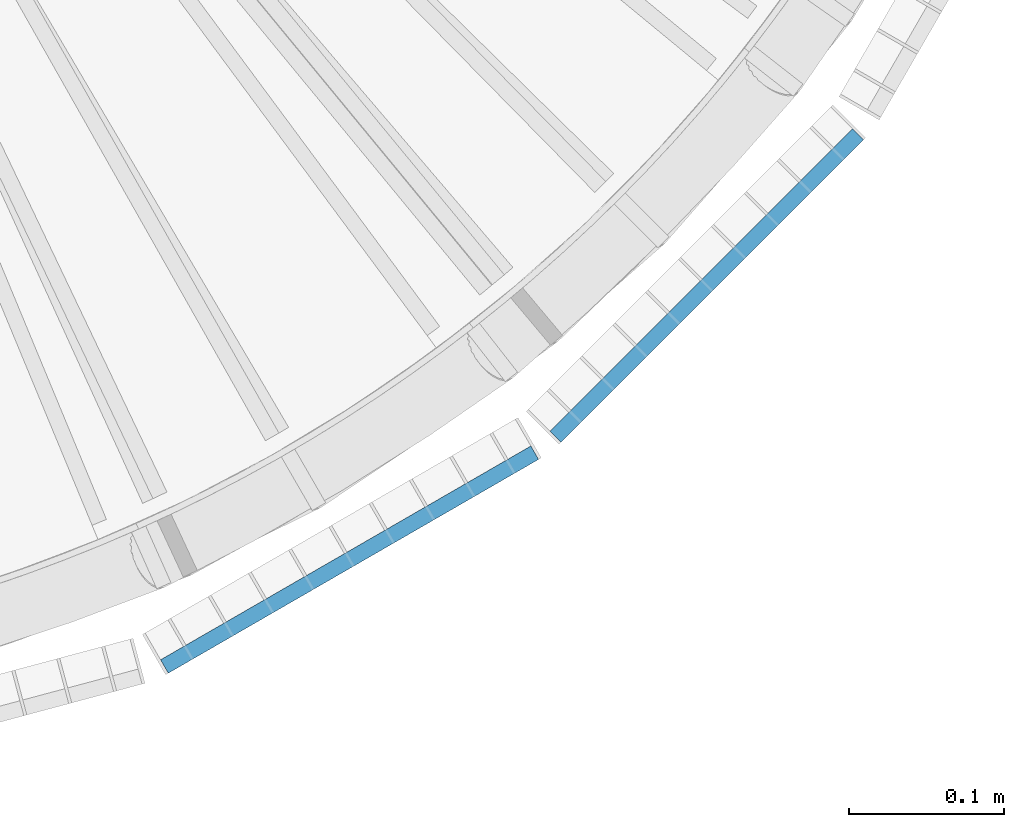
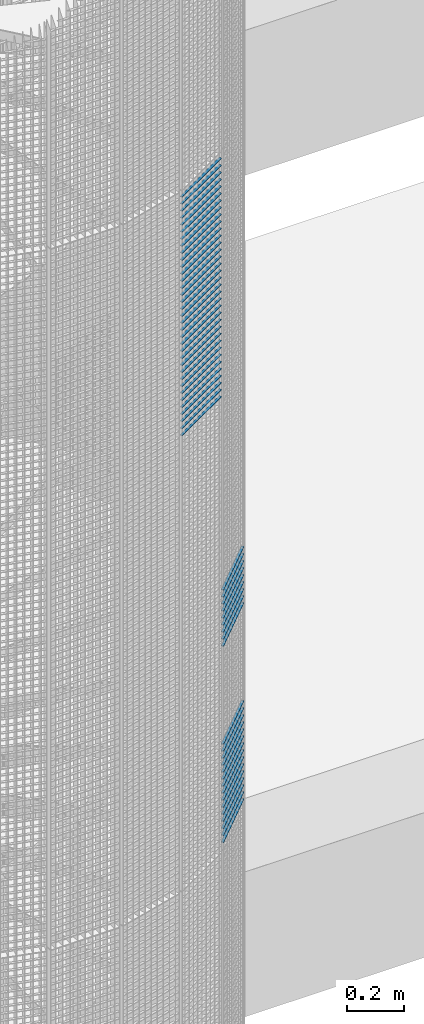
# One storey, part 248 of 1183: 59 beams, 2 elements without a shape of their own.
"""IFC2X3 building model written with IfcOpenShell, lengths in millimetres."""

from ifc_helpers import new_model, si_unit, frame, origin_with_axes, origin_2d_with_axis, place, context, subcontext, project, spatial, rectangle, extrude, material, type_object, element, aggregate, save


model = new_model("IFC2X3")

# Units and contexts
model_context = context("Model", 3, precision=1e-05, world=origin_with_axes())
body_context = subcontext(model_context, "Body", "Model", "MODEL_VIEW")
ifc_project = project(units=[si_unit("LENGTHUNIT", "METRE", prefix="MILLI"), si_unit("AREAUNIT", "SQUARE_METRE"), si_unit("VOLUMEUNIT", "CUBIC_METRE"), si_unit("MASSUNIT", "GRAM", prefix="KILO"), si_unit("TIMEUNIT", "SECOND"), si_unit("PLANEANGLEUNIT", "RADIAN"), si_unit("SOLIDANGLEUNIT", "STERADIAN"), si_unit("THERMODYNAMICTEMPERATUREUNIT", "DEGREE_CELSIUS"), si_unit("LUMINOUSINTENSITYUNIT", "LUMEN")], contexts=[model_context])

# Site, building, storey
site_placement = place(None, origin_with_axes())
site = spatial("IfcSite", under=ifc_project, at=site_placement, Name="Undefined", CompositionType="ELEMENT")
building_placement = place(site_placement, origin_with_axes())
building = spatial("IfcBuilding", under=site, at=building_placement, Name="Undefined", CompositionType="ELEMENT")
storey_placement = place(building_placement, origin_with_axes())
storey = spatial("IfcBuildingStorey", under=building, at=storey_placement, Name="Undefined", CompositionType="ELEMENT", Elevation=0.0)

# Assembly, beams
assembly_1_placement = place(storey_placement, origin_with_axes())
assembly_1 = element("IfcElementAssembly", 1, at=assembly_1_placement, inside=storey, Name="BORDURE", AssemblyPlace="NOTDEFINED", PredefinedType="NOTDEFINED")
ifc_material = material(Name="STEEL/S235JR")
beam_type = type_object("IfcBeamType", Name="PL2*10", PredefinedType="NOTDEFINED")
beam_1_placement = place(assembly_1_placement, frame((689.771348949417, -884.927168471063, 9870.0), z_axis=(0.707106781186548, -0.707106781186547, 0.0), x_axis=(0.707106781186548, 0.707106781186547, 0.0)))
beam_1 = element("IfcBeam", 2, at=beam_1_placement, type_object=beam_type, material=ifc_material, Name="ENTRETOISE", context=body_context, shape_type="SweptSolid", body=[
    extrude(rectangle(XDim=2.0, YDim=10.0, at=origin_2d_with_axis()), frame((275.999999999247, 9.09494701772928e-13, 1.53210777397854e-14), z_axis=(-1.0, 0.0, 0.0), x_axis=(0.0, -1.0, 0.0)), (0.0, 0.0, 1.0), 276.0),
])
beam_2_placement = place(assembly_1_placement, frame((689.771348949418, -884.927168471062, 9450.0), z_axis=(0.707106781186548, -0.707106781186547, 0.0), x_axis=(0.707106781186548, 0.707106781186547, 0.0)))
beam_2 = element("IfcBeam", 3, at=beam_2_placement, type_object=beam_type, material=ifc_material, Name="ENTRETOISE", context=body_context, shape_type="SweptSolid", body=[
    extrude(rectangle(XDim=2.0, YDim=10.0, at=origin_2d_with_axis()), frame((275.999999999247, 9.09494701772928e-13, 1.53210777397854e-14), z_axis=(-1.0, 0.0, 0.0), x_axis=(0.0, -1.0, 0.0)), (0.0, 0.0, 1.0), 276.0),
])
beam_3_placement = place(assembly_1_placement, frame((689.771348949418, -884.927168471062, 9420.0), z_axis=(0.707106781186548, -0.707106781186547, 0.0), x_axis=(0.707106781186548, 0.707106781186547, 0.0)))
beam_3 = element("IfcBeam", 4, at=beam_3_placement, type_object=beam_type, material=ifc_material, Name="ENTRETOISE", context=body_context, shape_type="SweptSolid", body=[
    extrude(rectangle(XDim=2.0, YDim=10.0, at=origin_2d_with_axis()), frame((275.999999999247, 9.09494701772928e-13, 1.53210777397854e-14), z_axis=(-1.0, 0.0, 0.0), x_axis=(0.0, -1.0, 0.0)), (0.0, 0.0, 1.0), 276.0),
])
beam_4_placement = place(assembly_1_placement, frame((689.771348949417, -884.927168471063, 9900.0), z_axis=(0.707106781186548, -0.707106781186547, 0.0), x_axis=(0.707106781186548, 0.707106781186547, 0.0)))
beam_4 = element("IfcBeam", 5, at=beam_4_placement, type_object=beam_type, material=ifc_material, Name="ENTRETOISE", context=body_context, shape_type="SweptSolid", body=[
    extrude(rectangle(XDim=2.0, YDim=10.0, at=origin_2d_with_axis()), frame((275.999999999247, 9.09494701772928e-13, 1.53210777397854e-14), z_axis=(-1.0, 0.0, 0.0), x_axis=(0.0, -1.0, 0.0)), (0.0, 0.0, 1.0), 276.0),
])
beam_5_placement = place(assembly_1_placement, frame((689.771348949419, -884.927168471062, 9390.0), z_axis=(0.707106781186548, -0.707106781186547, 0.0), x_axis=(0.707106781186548, 0.707106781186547, 0.0)))
beam_5 = element("IfcBeam", 6, at=beam_5_placement, type_object=beam_type, material=ifc_material, Name="ENTRETOISE", context=body_context, shape_type="SweptSolid", body=[
    extrude(rectangle(XDim=2.0, YDim=10.0, at=origin_2d_with_axis()), frame((275.999999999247, 9.09494701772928e-13, 1.53210777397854e-14), z_axis=(-1.0, 0.0, 0.0), x_axis=(0.0, -1.0, 0.0)), (0.0, 0.0, 1.0), 276.0),
])
beam_6_placement = place(assembly_1_placement, frame((689.771348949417, -884.927168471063, 9930.0), z_axis=(0.707106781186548, -0.707106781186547, 0.0), x_axis=(0.707106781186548, 0.707106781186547, 0.0)))
beam_6 = element("IfcBeam", 7, at=beam_6_placement, type_object=beam_type, material=ifc_material, Name="ENTRETOISE", context=body_context, shape_type="SweptSolid", body=[
    extrude(rectangle(XDim=2.0, YDim=10.0, at=origin_2d_with_axis()), frame((275.999999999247, 9.09494701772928e-13, 1.53210777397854e-14), z_axis=(-1.0, 0.0, 0.0), x_axis=(0.0, -1.0, 0.0)), (0.0, 0.0, 1.0), 276.0),
])
beam_7_placement = place(assembly_1_placement, frame((689.771348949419, -884.927168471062, 9360.0), z_axis=(0.707106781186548, -0.707106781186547, 0.0), x_axis=(0.707106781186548, 0.707106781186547, 0.0)))
beam_7 = element("IfcBeam", 8, at=beam_7_placement, type_object=beam_type, material=ifc_material, Name="ENTRETOISE", context=body_context, shape_type="SweptSolid", body=[
    extrude(rectangle(XDim=2.0, YDim=10.0, at=origin_2d_with_axis()), frame((275.999999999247, 9.09494701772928e-13, 1.53210777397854e-14), z_axis=(-1.0, 0.0, 0.0), x_axis=(0.0, -1.0, 0.0)), (0.0, 0.0, 1.0), 276.0),
])
beam_8_placement = place(assembly_1_placement, frame((689.771348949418, -884.927168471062, 9330.0), z_axis=(0.707106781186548, -0.707106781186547, 0.0), x_axis=(0.707106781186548, 0.707106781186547, 0.0)))
beam_8 = element("IfcBeam", 9, at=beam_8_placement, type_object=beam_type, material=ifc_material, Name="ENTRETOISE", context=body_context, shape_type="SweptSolid", body=[
    extrude(rectangle(XDim=2.0, YDim=10.0, at=origin_2d_with_axis()), frame((275.999999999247, 9.09494701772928e-13, 1.53210777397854e-14), z_axis=(-1.0, 0.0, 0.0), x_axis=(0.0, -1.0, 0.0)), (0.0, 0.0, 1.0), 276.0),
])
beam_9_placement = place(assembly_1_placement, frame((689.771348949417, -884.927168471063, 9960.0), z_axis=(0.707106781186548, -0.707106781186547, 0.0), x_axis=(0.707106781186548, 0.707106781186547, 0.0)))
beam_9 = element("IfcBeam", 10, at=beam_9_placement, type_object=beam_type, material=ifc_material, Name="ENTRETOISE", context=body_context, shape_type="SweptSolid", body=[
    extrude(rectangle(XDim=2.0, YDim=10.0, at=origin_2d_with_axis()), frame((275.999999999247, 9.09494701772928e-13, 1.53210777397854e-14), z_axis=(-1.0, 0.0, 0.0), x_axis=(0.0, -1.0, 0.0)), (0.0, 0.0, 1.0), 276.0),
])
beam_10_placement = place(assembly_1_placement, frame((689.771348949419, -884.927168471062, 9300.0), z_axis=(0.707106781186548, -0.707106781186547, 0.0), x_axis=(0.707106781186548, 0.707106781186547, 0.0)))
beam_10 = element("IfcBeam", 11, at=beam_10_placement, type_object=beam_type, material=ifc_material, Name="ENTRETOISE", context=body_context, shape_type="SweptSolid", body=[
    extrude(rectangle(XDim=2.0, YDim=10.0, at=origin_2d_with_axis()), frame((275.999999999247, 9.09494701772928e-13, 1.53210777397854e-14), z_axis=(-1.0, 0.0, 0.0), x_axis=(0.0, -1.0, 0.0)), (0.0, 0.0, 1.0), 276.0),
])
beam_11_placement = place(assembly_1_placement, frame((689.771348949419, -884.927168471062, 9270.0), z_axis=(0.707106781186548, -0.707106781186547, 0.0), x_axis=(0.707106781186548, 0.707106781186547, 0.0)))
beam_11 = element("IfcBeam", 12, at=beam_11_placement, type_object=beam_type, material=ifc_material, Name="ENTRETOISE", context=body_context, shape_type="SweptSolid", body=[
    extrude(rectangle(XDim=2.0, YDim=10.0, at=origin_2d_with_axis()), frame((275.999999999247, 9.09494701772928e-13, 1.53210777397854e-14), z_axis=(-1.0, 0.0, 0.0), x_axis=(0.0, -1.0, 0.0)), (0.0, 0.0, 1.0), 276.0),
])
beam_12_placement = place(assembly_1_placement, frame((689.771348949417, -884.927168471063, 9990.0), z_axis=(0.707106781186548, -0.707106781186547, 0.0), x_axis=(0.707106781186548, 0.707106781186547, 0.0)))
beam_12 = element("IfcBeam", 13, at=beam_12_placement, type_object=beam_type, material=ifc_material, Name="ENTRETOISE", context=body_context, shape_type="SweptSolid", body=[
    extrude(rectangle(XDim=2.0, YDim=10.0, at=origin_2d_with_axis()), frame((275.999999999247, 9.09494701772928e-13, 1.53210777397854e-14), z_axis=(-1.0, 0.0, 0.0), x_axis=(0.0, -1.0, 0.0)), (0.0, 0.0, 1.0), 276.0),
])
beam_13_placement = place(assembly_1_placement, frame((689.771348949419, -884.927168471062, 9240.0), z_axis=(0.707106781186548, -0.707106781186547, 0.0), x_axis=(0.707106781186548, 0.707106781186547, 0.0)))
beam_13 = element("IfcBeam", 14, at=beam_13_placement, type_object=beam_type, material=ifc_material, Name="ENTRETOISE", context=body_context, shape_type="SweptSolid", body=[
    extrude(rectangle(XDim=2.0, YDim=10.0, at=origin_2d_with_axis()), frame((275.999999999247, 9.09494701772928e-13, 1.53210777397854e-14), z_axis=(-1.0, 0.0, 0.0), x_axis=(0.0, -1.0, 0.0)), (0.0, 0.0, 1.0), 276.0),
])
beam_14_placement = place(assembly_1_placement, frame((689.771348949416, -884.927168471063, 10020.0), z_axis=(0.707106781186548, -0.707106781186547, 0.0), x_axis=(0.707106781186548, 0.707106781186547, 0.0)))
beam_14 = element("IfcBeam", 15, at=beam_14_placement, type_object=beam_type, material=ifc_material, Name="ENTRETOISE", context=body_context, shape_type="SweptSolid", body=[
    extrude(rectangle(XDim=2.0, YDim=10.0, at=origin_2d_with_axis()), frame((275.999999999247, 9.09494701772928e-13, 1.53210777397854e-14), z_axis=(-1.0, 0.0, 0.0), x_axis=(0.0, -1.0, 0.0)), (0.0, 0.0, 1.0), 276.0),
])
beam_15_placement = place(assembly_1_placement, frame((689.771348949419, -884.927168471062, 9210.0), z_axis=(0.707106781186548, -0.707106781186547, 0.0), x_axis=(0.707106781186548, 0.707106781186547, 0.0)))
beam_15 = element("IfcBeam", 16, at=beam_15_placement, type_object=beam_type, material=ifc_material, Name="ENTRETOISE", context=body_context, shape_type="SweptSolid", body=[
    extrude(rectangle(XDim=2.0, YDim=10.0, at=origin_2d_with_axis()), frame((275.999999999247, 9.09494701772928e-13, 1.53210777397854e-14), z_axis=(-1.0, 0.0, 0.0), x_axis=(0.0, -1.0, 0.0)), (0.0, 0.0, 1.0), 276.0),
])
beam_16_placement = place(assembly_1_placement, frame((689.771348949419, -884.927168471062, 9180.0), z_axis=(0.707106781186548, -0.707106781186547, 0.0), x_axis=(0.707106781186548, 0.707106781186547, 0.0)))
beam_16 = element("IfcBeam", 17, at=beam_16_placement, type_object=beam_type, material=ifc_material, Name="ENTRETOISE", context=body_context, shape_type="SweptSolid", body=[
    extrude(rectangle(XDim=2.0, YDim=10.0, at=origin_2d_with_axis()), frame((275.999999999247, 9.09494701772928e-13, 1.53210777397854e-14), z_axis=(-1.0, 0.0, 0.0), x_axis=(0.0, -1.0, 0.0)), (0.0, 0.0, 1.0), 276.0),
])
beam_17_placement = place(assembly_1_placement, frame((689.771348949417, -884.927168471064, 10050.0), z_axis=(0.707106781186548, -0.707106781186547, 0.0), x_axis=(0.707106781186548, 0.707106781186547, 0.0)))
beam_17 = element("IfcBeam", 18, at=beam_17_placement, type_object=beam_type, material=ifc_material, Name="ENTRETOISE", context=body_context, shape_type="SweptSolid", body=[
    extrude(rectangle(XDim=2.0, YDim=10.0, at=origin_2d_with_axis()), frame((275.999999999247, 9.09494701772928e-13, 1.53210777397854e-14), z_axis=(-1.0, 0.0, 0.0), x_axis=(0.0, -1.0, 0.0)), (0.0, 0.0, 1.0), 276.0),
])
beam_18_placement = place(assembly_1_placement, frame((689.771348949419, -884.927168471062, 9150.0), z_axis=(0.707106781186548, -0.707106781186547, 0.0), x_axis=(0.707106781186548, 0.707106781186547, 0.0)))
beam_18 = element("IfcBeam", 19, at=beam_18_placement, type_object=beam_type, material=ifc_material, Name="ENTRETOISE", context=body_context, shape_type="SweptSolid", body=[
    extrude(rectangle(XDim=2.0, YDim=10.0, at=origin_2d_with_axis()), frame((275.999999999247, 9.09494701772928e-13, 1.53210777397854e-14), z_axis=(-1.0, 0.0, 0.0), x_axis=(0.0, -1.0, 0.0)), (0.0, 0.0, 1.0), 276.0),
])
beam_19_placement = place(assembly_1_placement, frame((689.771348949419, -884.927168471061, 9120.0), z_axis=(0.707106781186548, -0.707106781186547, 0.0), x_axis=(0.707106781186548, 0.707106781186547, 0.0)))
beam_19 = element("IfcBeam", 20, at=beam_19_placement, type_object=beam_type, material=ifc_material, Name="ENTRETOISE", context=body_context, shape_type="SweptSolid", body=[
    extrude(rectangle(XDim=2.0, YDim=10.0, at=origin_2d_with_axis()), frame((275.999999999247, 9.09494701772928e-13, 1.53210777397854e-14), z_axis=(-1.0, 0.0, 0.0), x_axis=(0.0, -1.0, 0.0)), (0.0, 0.0, 1.0), 276.0),
])
beam_20_placement = place(assembly_1_placement, frame((689.771348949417, -884.927168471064, 10080.0), z_axis=(0.707106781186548, -0.707106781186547, 0.0), x_axis=(0.707106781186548, 0.707106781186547, 0.0)))
beam_20 = element("IfcBeam", 21, at=beam_20_placement, type_object=beam_type, material=ifc_material, Name="ENTRETOISE", context=body_context, shape_type="SweptSolid", body=[
    extrude(rectangle(XDim=2.0, YDim=10.0, at=origin_2d_with_axis()), frame((275.999999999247, 9.09494701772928e-13, 1.53210777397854e-14), z_axis=(-1.0, 0.0, 0.0), x_axis=(0.0, -1.0, 0.0)), (0.0, 0.0, 1.0), 276.0),
])
beam_21_placement = place(assembly_1_placement, frame((689.771348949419, -884.927168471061, 9090.0), z_axis=(0.707106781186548, -0.707106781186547, 0.0), x_axis=(0.707106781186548, 0.707106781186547, 0.0)))
beam_21 = element("IfcBeam", 22, at=beam_21_placement, type_object=beam_type, material=ifc_material, Name="ENTRETOISE", context=body_context, shape_type="SweptSolid", body=[
    extrude(rectangle(XDim=2.0, YDim=10.0, at=origin_2d_with_axis()), frame((275.999999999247, 9.09494701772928e-13, 1.53210777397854e-14), z_axis=(-1.0, 0.0, 0.0), x_axis=(0.0, -1.0, 0.0)), (0.0, 0.0, 1.0), 276.0),
])
beam_22_placement = place(assembly_1_placement, frame((689.771348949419, -884.927168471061, 9060.0), z_axis=(0.707106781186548, -0.707106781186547, 0.0), x_axis=(0.707106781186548, 0.707106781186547, 0.0)))
beam_22 = element("IfcBeam", 23, at=beam_22_placement, type_object=beam_type, material=ifc_material, Name="ENTRETOISE", context=body_context, shape_type="SweptSolid", body=[
    extrude(rectangle(XDim=2.0, YDim=10.0, at=origin_2d_with_axis()), frame((275.999999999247, 9.09494701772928e-13, 1.53210777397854e-14), z_axis=(-1.0, 0.0, 0.0), x_axis=(0.0, -1.0, 0.0)), (0.0, 0.0, 1.0), 276.0),
])
beam_23_placement = place(assembly_1_placement, frame((689.771348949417, -884.927168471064, 10110.0), z_axis=(0.707106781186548, -0.707106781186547, 0.0), x_axis=(0.707106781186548, 0.707106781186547, 0.0)))
beam_23 = element("IfcBeam", 24, at=beam_23_placement, type_object=beam_type, material=ifc_material, Name="ENTRETOISE", context=body_context, shape_type="SweptSolid", body=[
    extrude(rectangle(XDim=2.0, YDim=10.0, at=origin_2d_with_axis()), frame((275.999999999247, 9.09494701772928e-13, 1.53210777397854e-14), z_axis=(-1.0, 0.0, 0.0), x_axis=(0.0, -1.0, 0.0)), (0.0, 0.0, 1.0), 276.0),
])
beam_24_placement = place(assembly_1_placement, frame((689.77134894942, -884.92716847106, 9030.0), z_axis=(0.707106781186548, -0.707106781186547, 0.0), x_axis=(0.707106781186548, 0.707106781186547, 0.0)))
beam_24 = element("IfcBeam", 25, at=beam_24_placement, type_object=beam_type, material=ifc_material, Name="ENTRETOISE", context=body_context, shape_type="SweptSolid", body=[
    extrude(rectangle(XDim=2.0, YDim=10.0, at=origin_2d_with_axis()), frame((275.999999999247, 9.09494701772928e-13, 1.53210777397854e-14), z_axis=(-1.0, 0.0, 0.0), x_axis=(0.0, -1.0, 0.0)), (0.0, 0.0, 1.0), 276.0),
])
aggregate(assembly_1, [beam_1, beam_2, beam_3, beam_4, beam_5, beam_6, beam_7, beam_8, beam_9, beam_10, beam_11, beam_12, beam_13, beam_14, beam_15, beam_16, beam_17, beam_18, beam_19, beam_20, beam_21, beam_22, beam_23, beam_24])

assembly_2_placement = place(storey_placement, origin_with_axes())
assembly_2 = element("IfcElementAssembly", 26, at=assembly_2_placement, inside=storey, Name="BORDURE", AssemblyPlace="NOTDEFINED", PredefinedType="NOTDEFINED")
beam_25_placement = place(assembly_2_placement, frame((437.231955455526, -1033.29996828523, 11970.0), z_axis=(0.499999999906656, -0.866025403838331, 0.0), x_axis=(0.866025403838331, 0.499999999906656, 0.0)))
beam_25 = element("IfcBeam", 27, at=beam_25_placement, type_object=beam_type, material=ifc_material, Name="ENTRETOISE", context=body_context, shape_type="SweptSolid", body=[
    extrude(rectangle(XDim=2.0, YDim=10.0, at=origin_2d_with_axis()), frame((275.999999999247, 9.09494701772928e-13, 1.53210777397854e-14), z_axis=(-1.0, 0.0, 0.0), x_axis=(0.0, -1.0, 0.0)), (0.0, 0.0, 1.0), 276.0),
])
beam_26_placement = place(assembly_2_placement, frame((437.231955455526, -1033.29996828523, 11940.0), z_axis=(0.499999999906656, -0.866025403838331, 0.0), x_axis=(0.866025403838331, 0.499999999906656, 0.0)))
beam_26 = element("IfcBeam", 28, at=beam_26_placement, type_object=beam_type, material=ifc_material, Name="ENTRETOISE", context=body_context, shape_type="SweptSolid", body=[
    extrude(rectangle(XDim=2.0, YDim=10.0, at=origin_2d_with_axis()), frame((275.999999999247, 9.09494701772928e-13, 1.53210777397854e-14), z_axis=(-1.0, 0.0, 0.0), x_axis=(0.0, -1.0, 0.0)), (0.0, 0.0, 1.0), 276.0),
])
beam_27_placement = place(assembly_2_placement, frame((437.231955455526, -1033.29996828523, 11910.0), z_axis=(0.499999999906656, -0.866025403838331, 0.0), x_axis=(0.866025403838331, 0.499999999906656, 0.0)))
beam_27 = element("IfcBeam", 29, at=beam_27_placement, type_object=beam_type, material=ifc_material, Name="ENTRETOISE", context=body_context, shape_type="SweptSolid", body=[
    extrude(rectangle(XDim=2.0, YDim=10.0, at=origin_2d_with_axis()), frame((275.999999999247, 9.09494701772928e-13, 1.53210777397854e-14), z_axis=(-1.0, 0.0, 0.0), x_axis=(0.0, -1.0, 0.0)), (0.0, 0.0, 1.0), 276.0),
])
beam_28_placement = place(assembly_2_placement, frame((437.231955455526, -1033.29996828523, 11880.0), z_axis=(0.499999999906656, -0.866025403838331, 0.0), x_axis=(0.866025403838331, 0.499999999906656, 0.0)))
beam_28 = element("IfcBeam", 30, at=beam_28_placement, type_object=beam_type, material=ifc_material, Name="ENTRETOISE", context=body_context, shape_type="SweptSolid", body=[
    extrude(rectangle(XDim=2.0, YDim=10.0, at=origin_2d_with_axis()), frame((275.999999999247, 9.09494701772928e-13, 1.53210777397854e-14), z_axis=(-1.0, 0.0, 0.0), x_axis=(0.0, -1.0, 0.0)), (0.0, 0.0, 1.0), 276.0),
])
beam_29_placement = place(assembly_2_placement, frame((437.231955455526, -1033.29996828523, 11850.0), z_axis=(0.499999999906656, -0.866025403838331, 0.0), x_axis=(0.866025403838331, 0.499999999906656, 0.0)))
beam_29 = element("IfcBeam", 31, at=beam_29_placement, type_object=beam_type, material=ifc_material, Name="ENTRETOISE", context=body_context, shape_type="SweptSolid", body=[
    extrude(rectangle(XDim=2.0, YDim=10.0, at=origin_2d_with_axis()), frame((275.999999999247, 9.09494701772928e-13, 1.53210777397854e-14), z_axis=(-1.0, 0.0, 0.0), x_axis=(0.0, -1.0, 0.0)), (0.0, 0.0, 1.0), 276.0),
])
beam_30_placement = place(assembly_2_placement, frame((437.231955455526, -1033.29996828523, 11820.0), z_axis=(0.499999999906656, -0.866025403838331, 0.0), x_axis=(0.866025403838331, 0.499999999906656, 0.0)))
beam_30 = element("IfcBeam", 32, at=beam_30_placement, type_object=beam_type, material=ifc_material, Name="ENTRETOISE", context=body_context, shape_type="SweptSolid", body=[
    extrude(rectangle(XDim=2.0, YDim=10.0, at=origin_2d_with_axis()), frame((275.999999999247, 9.09494701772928e-13, 1.53210777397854e-14), z_axis=(-1.0, 0.0, 0.0), x_axis=(0.0, -1.0, 0.0)), (0.0, 0.0, 1.0), 276.0),
])
beam_31_placement = place(assembly_2_placement, frame((437.231955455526, -1033.29996828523, 11790.0), z_axis=(0.499999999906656, -0.866025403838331, 0.0), x_axis=(0.866025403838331, 0.499999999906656, 0.0)))
beam_31 = element("IfcBeam", 33, at=beam_31_placement, type_object=beam_type, material=ifc_material, Name="ENTRETOISE", context=body_context, shape_type="SweptSolid", body=[
    extrude(rectangle(XDim=2.0, YDim=10.0, at=origin_2d_with_axis()), frame((275.999999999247, 9.09494701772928e-13, 1.53210777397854e-14), z_axis=(-1.0, 0.0, 0.0), x_axis=(0.0, -1.0, 0.0)), (0.0, 0.0, 1.0), 276.0),
])
beam_32_placement = place(assembly_2_placement, frame((437.231955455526, -1033.29996828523, 11760.0), z_axis=(0.499999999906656, -0.866025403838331, 0.0), x_axis=(0.866025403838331, 0.499999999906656, 0.0)))
beam_32 = element("IfcBeam", 34, at=beam_32_placement, type_object=beam_type, material=ifc_material, Name="ENTRETOISE", context=body_context, shape_type="SweptSolid", body=[
    extrude(rectangle(XDim=2.0, YDim=10.0, at=origin_2d_with_axis()), frame((275.999999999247, 9.09494701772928e-13, 1.53210777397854e-14), z_axis=(-1.0, 0.0, 0.0), x_axis=(0.0, -1.0, 0.0)), (0.0, 0.0, 1.0), 276.0),
])
beam_33_placement = place(assembly_2_placement, frame((437.231955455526, -1033.29996828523, 11730.0), z_axis=(0.499999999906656, -0.866025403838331, 0.0), x_axis=(0.866025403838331, 0.499999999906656, 0.0)))
beam_33 = element("IfcBeam", 35, at=beam_33_placement, type_object=beam_type, material=ifc_material, Name="ENTRETOISE", context=body_context, shape_type="SweptSolid", body=[
    extrude(rectangle(XDim=2.0, YDim=10.0, at=origin_2d_with_axis()), frame((275.999999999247, 9.09494701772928e-13, 1.53210777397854e-14), z_axis=(-1.0, 0.0, 0.0), x_axis=(0.0, -1.0, 0.0)), (0.0, 0.0, 1.0), 276.0),
])
beam_34_placement = place(assembly_2_placement, frame((437.231955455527, -1033.29996828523, 11700.0), z_axis=(0.499999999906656, -0.866025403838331, 0.0), x_axis=(0.866025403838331, 0.499999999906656, 0.0)))
beam_34 = element("IfcBeam", 36, at=beam_34_placement, type_object=beam_type, material=ifc_material, Name="ENTRETOISE", context=body_context, shape_type="SweptSolid", body=[
    extrude(rectangle(XDim=2.0, YDim=10.0, at=origin_2d_with_axis()), frame((275.999999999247, 9.09494701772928e-13, 1.53210777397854e-14), z_axis=(-1.0, 0.0, 0.0), x_axis=(0.0, -1.0, 0.0)), (0.0, 0.0, 1.0), 276.0),
])
beam_35_placement = place(assembly_2_placement, frame((437.231955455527, -1033.29996828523, 11670.0), z_axis=(0.499999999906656, -0.866025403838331, 0.0), x_axis=(0.866025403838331, 0.499999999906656, 0.0)))
beam_35 = element("IfcBeam", 37, at=beam_35_placement, type_object=beam_type, material=ifc_material, Name="ENTRETOISE", context=body_context, shape_type="SweptSolid", body=[
    extrude(rectangle(XDim=2.0, YDim=10.0, at=origin_2d_with_axis()), frame((275.999999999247, 9.09494701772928e-13, 1.53210777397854e-14), z_axis=(-1.0, 0.0, 0.0), x_axis=(0.0, -1.0, 0.0)), (0.0, 0.0, 1.0), 276.0),
])
beam_36_placement = place(assembly_2_placement, frame((437.231955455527, -1033.29996828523, 11640.0), z_axis=(0.499999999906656, -0.866025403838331, 0.0), x_axis=(0.866025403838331, 0.499999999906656, 0.0)))
beam_36 = element("IfcBeam", 38, at=beam_36_placement, type_object=beam_type, material=ifc_material, Name="ENTRETOISE", context=body_context, shape_type="SweptSolid", body=[
    extrude(rectangle(XDim=2.0, YDim=10.0, at=origin_2d_with_axis()), frame((275.999999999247, 9.09494701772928e-13, 1.53210777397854e-14), z_axis=(-1.0, 0.0, 0.0), x_axis=(0.0, -1.0, 0.0)), (0.0, 0.0, 1.0), 276.0),
])
beam_37_placement = place(assembly_2_placement, frame((437.231955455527, -1033.29996828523, 11610.0), z_axis=(0.499999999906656, -0.866025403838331, 0.0), x_axis=(0.866025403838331, 0.499999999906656, 0.0)))
beam_37 = element("IfcBeam", 39, at=beam_37_placement, type_object=beam_type, material=ifc_material, Name="ENTRETOISE", context=body_context, shape_type="SweptSolid", body=[
    extrude(rectangle(XDim=2.0, YDim=10.0, at=origin_2d_with_axis()), frame((275.999999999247, 9.09494701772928e-13, 1.53210777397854e-14), z_axis=(-1.0, 0.0, 0.0), x_axis=(0.0, -1.0, 0.0)), (0.0, 0.0, 1.0), 276.0),
])
beam_38_placement = place(assembly_2_placement, frame((437.231955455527, -1033.29996828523, 11580.0), z_axis=(0.499999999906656, -0.866025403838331, 0.0), x_axis=(0.866025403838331, 0.499999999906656, 0.0)))
beam_38 = element("IfcBeam", 40, at=beam_38_placement, type_object=beam_type, material=ifc_material, Name="ENTRETOISE", context=body_context, shape_type="SweptSolid", body=[
    extrude(rectangle(XDim=2.0, YDim=10.0, at=origin_2d_with_axis()), frame((275.999999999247, 9.09494701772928e-13, 1.53210777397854e-14), z_axis=(-1.0, 0.0, 0.0), x_axis=(0.0, -1.0, 0.0)), (0.0, 0.0, 1.0), 276.0),
])
beam_39_placement = place(assembly_2_placement, frame((437.231955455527, -1033.29996828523, 11550.0), z_axis=(0.499999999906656, -0.866025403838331, 0.0), x_axis=(0.866025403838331, 0.499999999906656, 0.0)))
beam_39 = element("IfcBeam", 41, at=beam_39_placement, type_object=beam_type, material=ifc_material, Name="ENTRETOISE", context=body_context, shape_type="SweptSolid", body=[
    extrude(rectangle(XDim=2.0, YDim=10.0, at=origin_2d_with_axis()), frame((275.999999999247, 9.09494701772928e-13, 1.53210777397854e-14), z_axis=(-1.0, 0.0, 0.0), x_axis=(0.0, -1.0, 0.0)), (0.0, 0.0, 1.0), 276.0),
])
beam_40_placement = place(assembly_2_placement, frame((437.231955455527, -1033.29996828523, 11520.0), z_axis=(0.499999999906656, -0.866025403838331, 0.0), x_axis=(0.866025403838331, 0.499999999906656, 0.0)))
beam_40 = element("IfcBeam", 42, at=beam_40_placement, type_object=beam_type, material=ifc_material, Name="ENTRETOISE", context=body_context, shape_type="SweptSolid", body=[
    extrude(rectangle(XDim=2.0, YDim=10.0, at=origin_2d_with_axis()), frame((275.999999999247, 9.09494701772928e-13, 1.53210777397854e-14), z_axis=(-1.0, 0.0, 0.0), x_axis=(0.0, -1.0, 0.0)), (0.0, 0.0, 1.0), 276.0),
])
beam_41_placement = place(assembly_2_placement, frame((437.231955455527, -1033.29996828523, 11490.0), z_axis=(0.499999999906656, -0.866025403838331, 0.0), x_axis=(0.866025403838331, 0.499999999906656, 0.0)))
beam_41 = element("IfcBeam", 43, at=beam_41_placement, type_object=beam_type, material=ifc_material, Name="ENTRETOISE", context=body_context, shape_type="SweptSolid", body=[
    extrude(rectangle(XDim=2.0, YDim=10.0, at=origin_2d_with_axis()), frame((275.999999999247, 9.09494701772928e-13, 1.53210777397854e-14), z_axis=(-1.0, 0.0, 0.0), x_axis=(0.0, -1.0, 0.0)), (0.0, 0.0, 1.0), 276.0),
])
beam_42_placement = place(assembly_2_placement, frame((437.231955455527, -1033.29996828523, 11460.0), z_axis=(0.499999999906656, -0.866025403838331, 0.0), x_axis=(0.866025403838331, 0.499999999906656, 0.0)))
beam_42 = element("IfcBeam", 44, at=beam_42_placement, type_object=beam_type, material=ifc_material, Name="ENTRETOISE", context=body_context, shape_type="SweptSolid", body=[
    extrude(rectangle(XDim=2.0, YDim=10.0, at=origin_2d_with_axis()), frame((275.999999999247, 9.09494701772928e-13, 1.53210777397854e-14), z_axis=(-1.0, 0.0, 0.0), x_axis=(0.0, -1.0, 0.0)), (0.0, 0.0, 1.0), 276.0),
])
beam_43_placement = place(assembly_2_placement, frame((437.231955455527, -1033.29996828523, 11430.0), z_axis=(0.499999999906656, -0.866025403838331, 0.0), x_axis=(0.866025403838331, 0.499999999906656, 0.0)))
beam_43 = element("IfcBeam", 45, at=beam_43_placement, type_object=beam_type, material=ifc_material, Name="ENTRETOISE", context=body_context, shape_type="SweptSolid", body=[
    extrude(rectangle(XDim=2.0, YDim=10.0, at=origin_2d_with_axis()), frame((275.999999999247, 9.09494701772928e-13, 1.53210777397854e-14), z_axis=(-1.0, 0.0, 0.0), x_axis=(0.0, -1.0, 0.0)), (0.0, 0.0, 1.0), 276.0),
])
beam_44_placement = place(assembly_2_placement, frame((437.231955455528, -1033.29996828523, 11400.0), z_axis=(0.499999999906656, -0.866025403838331, 0.0), x_axis=(0.866025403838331, 0.499999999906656, 0.0)))
beam_44 = element("IfcBeam", 46, at=beam_44_placement, type_object=beam_type, material=ifc_material, Name="ENTRETOISE", context=body_context, shape_type="SweptSolid", body=[
    extrude(rectangle(XDim=2.0, YDim=10.0, at=origin_2d_with_axis()), frame((275.999999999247, 9.09494701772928e-13, 1.53210777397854e-14), z_axis=(-1.0, 0.0, 0.0), x_axis=(0.0, -1.0, 0.0)), (0.0, 0.0, 1.0), 276.0),
])
beam_45_placement = place(assembly_2_placement, frame((437.231955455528, -1033.29996828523, 11370.0), z_axis=(0.499999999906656, -0.866025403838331, 0.0), x_axis=(0.866025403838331, 0.499999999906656, 0.0)))
beam_45 = element("IfcBeam", 47, at=beam_45_placement, type_object=beam_type, material=ifc_material, Name="ENTRETOISE", context=body_context, shape_type="SweptSolid", body=[
    extrude(rectangle(XDim=2.0, YDim=10.0, at=origin_2d_with_axis()), frame((275.999999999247, 9.09494701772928e-13, 1.53210777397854e-14), z_axis=(-1.0, 0.0, 0.0), x_axis=(0.0, -1.0, 0.0)), (0.0, 0.0, 1.0), 276.0),
])
beam_46_placement = place(assembly_2_placement, frame((437.231955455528, -1033.29996828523, 11340.0), z_axis=(0.499999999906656, -0.866025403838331, 0.0), x_axis=(0.866025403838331, 0.499999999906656, 0.0)))
beam_46 = element("IfcBeam", 48, at=beam_46_placement, type_object=beam_type, material=ifc_material, Name="ENTRETOISE", context=body_context, shape_type="SweptSolid", body=[
    extrude(rectangle(XDim=2.0, YDim=10.0, at=origin_2d_with_axis()), frame((275.999999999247, 9.09494701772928e-13, 1.53210777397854e-14), z_axis=(-1.0, 0.0, 0.0), x_axis=(0.0, -1.0, 0.0)), (0.0, 0.0, 1.0), 276.0),
])
beam_47_placement = place(assembly_2_placement, frame((437.231955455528, -1033.29996828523, 11310.0), z_axis=(0.499999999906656, -0.866025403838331, 0.0), x_axis=(0.866025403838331, 0.499999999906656, 0.0)))
beam_47 = element("IfcBeam", 49, at=beam_47_placement, type_object=beam_type, material=ifc_material, Name="ENTRETOISE", context=body_context, shape_type="SweptSolid", body=[
    extrude(rectangle(XDim=2.0, YDim=10.0, at=origin_2d_with_axis()), frame((275.999999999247, 9.09494701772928e-13, 1.53210777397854e-14), z_axis=(-1.0, 0.0, 0.0), x_axis=(0.0, -1.0, 0.0)), (0.0, 0.0, 1.0), 276.0),
])
beam_48_placement = place(assembly_2_placement, frame((437.231955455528, -1033.29996828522, 11280.0), z_axis=(0.499999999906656, -0.866025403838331, 0.0), x_axis=(0.866025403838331, 0.499999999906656, 0.0)))
beam_48 = element("IfcBeam", 50, at=beam_48_placement, type_object=beam_type, material=ifc_material, Name="ENTRETOISE", context=body_context, shape_type="SweptSolid", body=[
    extrude(rectangle(XDim=2.0, YDim=10.0, at=origin_2d_with_axis()), frame((275.999999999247, 9.09494701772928e-13, 1.53210777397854e-14), z_axis=(-1.0, 0.0, 0.0), x_axis=(0.0, -1.0, 0.0)), (0.0, 0.0, 1.0), 276.0),
])
beam_49_placement = place(assembly_2_placement, frame((437.231955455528, -1033.29996828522, 11250.0), z_axis=(0.499999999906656, -0.866025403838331, 0.0), x_axis=(0.866025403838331, 0.499999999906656, 0.0)))
beam_49 = element("IfcBeam", 51, at=beam_49_placement, type_object=beam_type, material=ifc_material, Name="ENTRETOISE", context=body_context, shape_type="SweptSolid", body=[
    extrude(rectangle(XDim=2.0, YDim=10.0, at=origin_2d_with_axis()), frame((275.999999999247, 9.09494701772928e-13, 1.53210777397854e-14), z_axis=(-1.0, 0.0, 0.0), x_axis=(0.0, -1.0, 0.0)), (0.0, 0.0, 1.0), 276.0),
])
beam_50_placement = place(assembly_2_placement, frame((437.231955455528, -1033.29996828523, 11220.0), z_axis=(0.499999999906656, -0.866025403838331, 0.0), x_axis=(0.866025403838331, 0.499999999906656, 0.0)))
beam_50 = element("IfcBeam", 52, at=beam_50_placement, type_object=beam_type, material=ifc_material, Name="ENTRETOISE", context=body_context, shape_type="SweptSolid", body=[
    extrude(rectangle(XDim=2.0, YDim=10.0, at=origin_2d_with_axis()), frame((275.999999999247, 9.09494701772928e-13, 1.53210777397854e-14), z_axis=(-1.0, 0.0, 0.0), x_axis=(0.0, -1.0, 0.0)), (0.0, 0.0, 1.0), 276.0),
])
beam_51_placement = place(assembly_2_placement, frame((437.231955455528, -1033.29996828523, 11190.0), z_axis=(0.499999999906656, -0.866025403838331, 0.0), x_axis=(0.866025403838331, 0.499999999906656, 0.0)))
beam_51 = element("IfcBeam", 53, at=beam_51_placement, type_object=beam_type, material=ifc_material, Name="ENTRETOISE", context=body_context, shape_type="SweptSolid", body=[
    extrude(rectangle(XDim=2.0, YDim=10.0, at=origin_2d_with_axis()), frame((275.999999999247, 9.09494701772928e-13, 1.53210777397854e-14), z_axis=(-1.0, 0.0, 0.0), x_axis=(0.0, -1.0, 0.0)), (0.0, 0.0, 1.0), 276.0),
])
beam_52_placement = place(assembly_2_placement, frame((437.231955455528, -1033.29996828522, 11160.0), z_axis=(0.499999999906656, -0.866025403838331, 0.0), x_axis=(0.866025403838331, 0.499999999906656, 0.0)))
beam_52 = element("IfcBeam", 54, at=beam_52_placement, type_object=beam_type, material=ifc_material, Name="ENTRETOISE", context=body_context, shape_type="SweptSolid", body=[
    extrude(rectangle(XDim=2.0, YDim=10.0, at=origin_2d_with_axis()), frame((275.999999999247, 9.09494701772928e-13, 1.53210777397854e-14), z_axis=(-1.0, 0.0, 0.0), x_axis=(0.0, -1.0, 0.0)), (0.0, 0.0, 1.0), 276.0),
])
beam_53_placement = place(assembly_2_placement, frame((437.231955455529, -1033.29996828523, 11130.0), z_axis=(0.499999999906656, -0.866025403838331, 0.0), x_axis=(0.866025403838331, 0.499999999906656, 0.0)))
beam_53 = element("IfcBeam", 55, at=beam_53_placement, type_object=beam_type, material=ifc_material, Name="ENTRETOISE", context=body_context, shape_type="SweptSolid", body=[
    extrude(rectangle(XDim=2.0, YDim=10.0, at=origin_2d_with_axis()), frame((275.999999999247, 9.09494701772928e-13, 1.53210777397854e-14), z_axis=(-1.0, 0.0, 0.0), x_axis=(0.0, -1.0, 0.0)), (0.0, 0.0, 1.0), 276.0),
])
beam_54_placement = place(assembly_2_placement, frame((437.231955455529, -1033.29996828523, 11100.0), z_axis=(0.499999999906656, -0.866025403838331, 0.0), x_axis=(0.866025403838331, 0.499999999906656, 0.0)))
beam_54 = element("IfcBeam", 56, at=beam_54_placement, type_object=beam_type, material=ifc_material, Name="ENTRETOISE", context=body_context, shape_type="SweptSolid", body=[
    extrude(rectangle(XDim=2.0, YDim=10.0, at=origin_2d_with_axis()), frame((275.999999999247, 9.09494701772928e-13, 1.53210777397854e-14), z_axis=(-1.0, 0.0, 0.0), x_axis=(0.0, -1.0, 0.0)), (0.0, 0.0, 1.0), 276.0),
])
beam_55_placement = place(assembly_2_placement, frame((437.231955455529, -1033.29996828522, 11070.0), z_axis=(0.499999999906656, -0.866025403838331, 0.0), x_axis=(0.866025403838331, 0.499999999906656, 0.0)))
beam_55 = element("IfcBeam", 57, at=beam_55_placement, type_object=beam_type, material=ifc_material, Name="ENTRETOISE", context=body_context, shape_type="SweptSolid", body=[
    extrude(rectangle(XDim=2.0, YDim=10.0, at=origin_2d_with_axis()), frame((275.999999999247, 9.09494701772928e-13, 1.53210777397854e-14), z_axis=(-1.0, 0.0, 0.0), x_axis=(0.0, -1.0, 0.0)), (0.0, 0.0, 1.0), 276.0),
])
beam_56_placement = place(assembly_2_placement, frame((437.231955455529, -1033.29996828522, 11040.0), z_axis=(0.499999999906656, -0.866025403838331, 0.0), x_axis=(0.866025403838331, 0.499999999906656, 0.0)))
beam_56 = element("IfcBeam", 58, at=beam_56_placement, type_object=beam_type, material=ifc_material, Name="ENTRETOISE", context=body_context, shape_type="SweptSolid", body=[
    extrude(rectangle(XDim=2.0, YDim=10.0, at=origin_2d_with_axis()), frame((275.999999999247, 9.09494701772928e-13, 1.53210777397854e-14), z_axis=(-1.0, 0.0, 0.0), x_axis=(0.0, -1.0, 0.0)), (0.0, 0.0, 1.0), 276.0),
])
beam_57_placement = place(assembly_2_placement, frame((437.231955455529, -1033.29996828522, 11010.0), z_axis=(0.499999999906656, -0.866025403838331, 0.0), x_axis=(0.866025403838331, 0.499999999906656, 0.0)))
beam_57 = element("IfcBeam", 59, at=beam_57_placement, type_object=beam_type, material=ifc_material, Name="ENTRETOISE", context=body_context, shape_type="SweptSolid", body=[
    extrude(rectangle(XDim=2.0, YDim=10.0, at=origin_2d_with_axis()), frame((275.999999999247, 9.09494701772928e-13, 1.53210777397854e-14), z_axis=(-1.0, 0.0, 0.0), x_axis=(0.0, -1.0, 0.0)), (0.0, 0.0, 1.0), 276.0),
])
beam_58_placement = place(assembly_2_placement, frame((437.231955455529, -1033.29996828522, 10980.0), z_axis=(0.499999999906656, -0.866025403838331, 0.0), x_axis=(0.866025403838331, 0.499999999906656, 0.0)))
beam_58 = element("IfcBeam", 60, at=beam_58_placement, type_object=beam_type, material=ifc_material, Name="ENTRETOISE", context=body_context, shape_type="SweptSolid", body=[
    extrude(rectangle(XDim=2.0, YDim=10.0, at=origin_2d_with_axis()), frame((275.999999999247, 9.09494701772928e-13, 1.53210777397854e-14), z_axis=(-1.0, 0.0, 0.0), x_axis=(0.0, -1.0, 0.0)), (0.0, 0.0, 1.0), 276.0),
])
beam_59_placement = place(assembly_2_placement, frame((437.231955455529, -1033.29996828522, 10950.0), z_axis=(0.499999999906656, -0.866025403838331, 0.0), x_axis=(0.866025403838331, 0.499999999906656, 0.0)))
beam_59 = element("IfcBeam", 61, at=beam_59_placement, type_object=beam_type, material=ifc_material, Name="ENTRETOISE", context=body_context, shape_type="SweptSolid", body=[
    extrude(rectangle(XDim=2.0, YDim=10.0, at=origin_2d_with_axis()), frame((275.999999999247, 9.09494701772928e-13, 1.53210777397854e-14), z_axis=(-1.0, 0.0, 0.0), x_axis=(0.0, -1.0, 0.0)), (0.0, 0.0, 1.0), 276.0),
])
aggregate(assembly_2, [beam_25, beam_26, beam_27, beam_28, beam_29, beam_30, beam_31, beam_32, beam_33, beam_34, beam_35, beam_36, beam_37, beam_38, beam_39, beam_40, beam_41, beam_42, beam_43, beam_44, beam_45, beam_46, beam_47, beam_48, beam_49, beam_50, beam_51, beam_52, beam_53, beam_54, beam_55, beam_56, beam_57, beam_58, beam_59])

save(model, "model.ifc")
